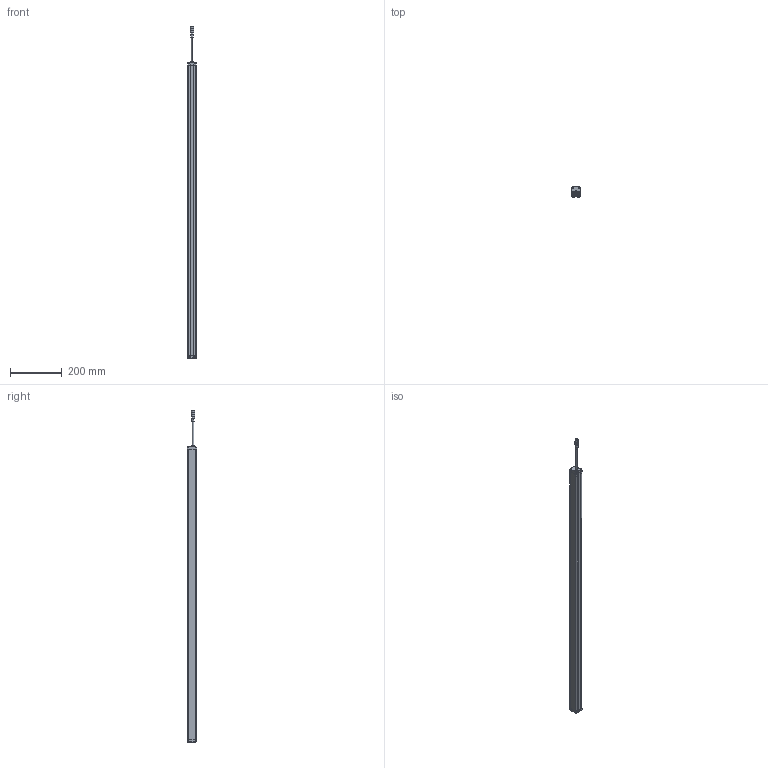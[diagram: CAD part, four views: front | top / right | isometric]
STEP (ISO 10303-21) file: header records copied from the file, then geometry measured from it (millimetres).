
FILE_DESCRIPTION((''),'2;1');
FILE_NAME('PRT0028','2026-03-31T13:15:33',('Administrator'),(''),'CREO PARAMETRIC BY PTC INC, 2016510','CREO PARAMETRIC BY PTC INC, 2016510','');
FILE_SCHEMA(('AUTOMOTIVE_DESIGN { 1 0 10303 214 1 1 1 1 }'));
Length unit declared in the file: millimetre
Products named in the file (1): PRT0028
Bounding box: 33 x 38 x 1281.9 mm (x, y, z)
Surface area: 251025.8 mm2 (no closed solid volume)
Topology: 0 solids, 12 shells, 815 faces, 2161 edges, 1365 vertices
Faces by surface type: plane 384, cylinder 235, extrusion 88, sphere 40, torus 36, cone 28, bspline 4
Entity records: 32086 total; most frequent: CARTESIAN_POINT 6066, ORIENTED_EDGE 4218, DIRECTION 3989, EDGE_CURVE 2109, VERTEX_POINT 1365, AXIS2_PLACEMENT_3D 1357, VECTOR 1275, LINE 1187
